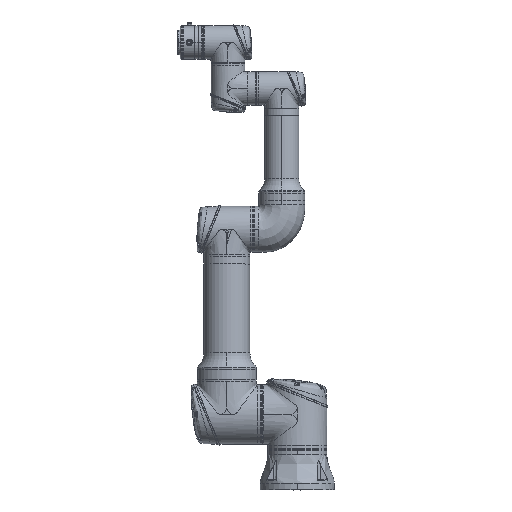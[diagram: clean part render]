
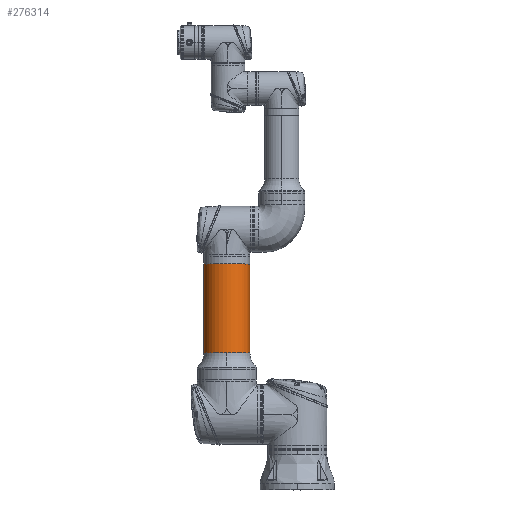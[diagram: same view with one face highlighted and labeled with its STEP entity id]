
A CAD part, top view. The second image highlights one B-rep face of the part: STEP entity #276314.
In plain terms, the highlighted cylindrical face has radius 59 mm (diameter 118 mm), a partial arc.
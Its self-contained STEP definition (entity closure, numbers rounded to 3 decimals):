
#10841 = AXIS2_PLACEMENT_3D ( 'NONE', #364006, #263175, #293402 ) ;
#18027 = ORIENTED_EDGE ( 'NONE', *, *, #38051, .F. ) ;
#22410 = ORIENTED_EDGE ( 'NONE', *, *, #38820, .T. ) ;
#25869 = DIRECTION ( 'NONE',  ( 0., 1., 0. ) ) ;
#38051 = EDGE_CURVE ( 'NONE', #214476, #47626, #165248, .T. ) ;
#38820 = EDGE_CURVE ( 'NONE', #419200, #355403, #332252, .T. ) ;
#45815 = ORIENTED_EDGE ( 'NONE', *, *, #404964, .T. ) ;
#47626 = VERTEX_POINT ( 'NONE', #199562 ) ;
#56056 = AXIS2_PLACEMENT_3D ( 'NONE', #167103, #61990, #25869 ) ;
#61990 = DIRECTION ( 'NONE',  ( 1., 0., 0. ) ) ;
#77804 = AXIS2_PLACEMENT_3D ( 'NONE', #218862, #355751, #354287 ) ;
#96038 = LINE ( 'NONE', #288101, #370309 ) ;
#111246 = ORIENTED_EDGE ( 'NONE', *, *, #170213, .F. ) ;
#118938 = CARTESIAN_POINT ( 'NONE',  ( 562.7, 0., -59. ) ) ;
#121522 = DIRECTION ( 'NONE',  ( 1., 0., 0. ) ) ;
#165248 = CIRCLE ( 'NONE', #10841, 59. ) ;
#167103 = CARTESIAN_POINT ( 'NONE',  ( 158.463, 0., 0. ) ) ;
#170213 = EDGE_CURVE ( 'NONE', #419200, #214476, #270150, .T. ) ;
#185065 = DIRECTION ( 'NONE',  ( 1., 0., 0. ) ) ;
#188677 = CARTESIAN_POINT ( 'NONE',  ( 386.1, 0., -59. ) ) ;
#190611 = DIRECTION ( 'NONE',  ( 0., 1., 0. ) ) ;
#191428 = EDGE_CURVE ( 'NONE', #355403, #416461, #225035, .T. ) ;
#199562 = CARTESIAN_POINT ( 'NONE',  ( 386.1, 0., 59. ) ) ;
#214476 = VERTEX_POINT ( 'NONE', #188677 ) ;
#218862 = CARTESIAN_POINT ( 'NONE',  ( 562.7, 0., 0. ) ) ;
#225035 = CIRCLE ( 'NONE', #56056, 59. ) ;
#232634 = VECTOR ( 'NONE', #185065, 1000. ) ;
#250651 = CARTESIAN_POINT ( 'NONE',  ( 158.463, 59., 0. ) ) ;
#263175 = DIRECTION ( 'NONE',  ( 1., 0., 0. ) ) ;
#264062 = CARTESIAN_POINT ( 'NONE',  ( 158.463, 0., 59. ) ) ;
#266689 = EDGE_LOOP ( 'NONE', ( #22410, #352089, #45815, #18027, #111246 ) ) ;
#270150 = LINE ( 'NONE', #118938, #232634 ) ;
#276314 = ADVANCED_FACE ( 'NONE', ( #306981 ), #280189, .T. ) ;
#280189 = CYLINDRICAL_SURFACE ( 'NONE', #77804, 59. ) ;
#288101 = CARTESIAN_POINT ( 'NONE',  ( 562.7, 0., 59. ) ) ;
#292888 = CARTESIAN_POINT ( 'NONE',  ( 158.463, 0., 0. ) ) ;
#292975 = CARTESIAN_POINT ( 'NONE',  ( 158.463, 0., -59. ) ) ;
#293402 = DIRECTION ( 'NONE',  ( 0., 0., -1. ) ) ;
#306981 = FACE_OUTER_BOUND ( 'NONE', #266689, .T. ) ;
#332252 = CIRCLE ( 'NONE', #365103, 59. ) ;
#352089 = ORIENTED_EDGE ( 'NONE', *, *, #191428, .T. ) ;
#354287 = DIRECTION ( 'NONE',  ( 0., 0., -1. ) ) ;
#355403 = VERTEX_POINT ( 'NONE', #250651 ) ;
#355751 = DIRECTION ( 'NONE',  ( 1., 0., 0. ) ) ;
#364006 = CARTESIAN_POINT ( 'NONE',  ( 386.1, 0., 0. ) ) ;
#365103 = AXIS2_PLACEMENT_3D ( 'NONE', #292888, #121522, #190611 ) ;
#370309 = VECTOR ( 'NONE', #426358, 1000. ) ;
#404964 = EDGE_CURVE ( 'NONE', #416461, #47626, #96038, .T. ) ;
#416461 = VERTEX_POINT ( 'NONE', #264062 ) ;
#419200 = VERTEX_POINT ( 'NONE', #292975 ) ;
#426358 = DIRECTION ( 'NONE',  ( 1., 0., 0. ) ) ;
